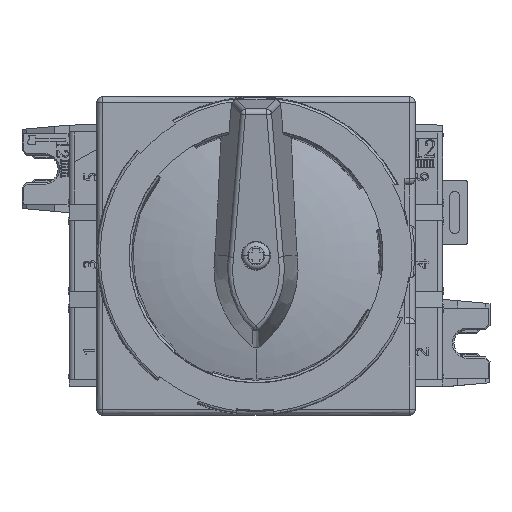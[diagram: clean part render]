
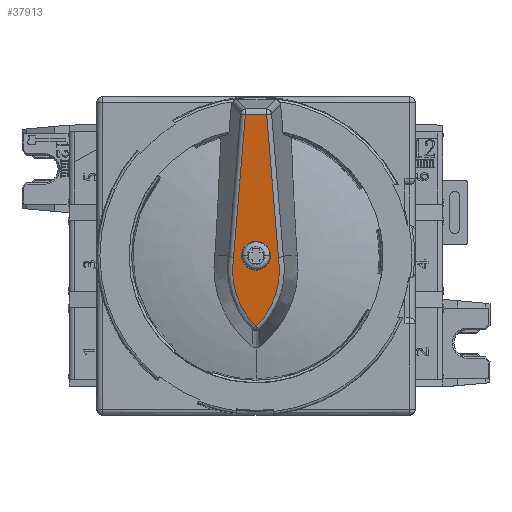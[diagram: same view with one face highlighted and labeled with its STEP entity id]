
A CAD part, top view. The second image highlights one B-rep face of the part: STEP entity #37913.
In plain terms, the highlighted planar face has unit normal (0, -0.159, 0.987).
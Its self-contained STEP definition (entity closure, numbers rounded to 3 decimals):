
#158 = CARTESIAN_POINT ( 'NONE',  ( -12., -45.383, 158.733 ) ) ;
#4258 = EDGE_LOOP ( 'NONE', ( #38844, #149845 ) ) ;
#5923 = CARTESIAN_POINT ( 'NONE',  ( -12., -28.288, 161.482 ) ) ;
#11836 = VERTEX_POINT ( 'NONE', #125252 ) ;
#14760 = DIRECTION ( 'NONE',  ( -1., 0., 0. ) ) ;
#16908 = VECTOR ( 'NONE', #90650, 1000. ) ;
#17272 = CARTESIAN_POINT ( 'NONE',  ( -12., -34.088, 160.549 ) ) ;
#22929 = VERTEX_POINT ( 'NONE', #55344 ) ;
#25547 = CARTESIAN_POINT ( 'NONE',  ( -6., -49.525, 158.067 ) ) ;
#25736 = DIRECTION ( 'NONE',  ( -0.082, 0.984, 0.158 ) ) ;
#26366 = EDGE_CURVE ( 'NONE', #76878, #71121, #51731, .T. ) ;
#27754 = VERTEX_POINT ( 'NONE', #100603 ) ;
#31312 = EDGE_CURVE ( 'NONE', #22929, #27754, #62911, .T. ) ;
#36503 = CARTESIAN_POINT ( 'NONE',  ( -9.873, -2.862, 165.571 ) ) ;
#37291 = VECTOR ( 'NONE', #25736, 1000. ) ;
#37913 = ADVANCED_FACE ( 'NONE', ( #92523, #89101 ), #104690, .T. ) ;
#37942 = ORIENTED_EDGE ( 'NONE', *, *, #150758, .T. ) ;
#38844 = ORIENTED_EDGE ( 'NONE', *, *, #31312, .F. ) ;
#44438 = CARTESIAN_POINT ( 'NONE',  ( -6.639, -36.705, 160.128 ) ) ;
#45864 = ORIENTED_EDGE ( 'NONE', *, *, #148966, .T. ) ;
#48055 = CARTESIAN_POINT ( 'NONE',  ( -12., -28.288, 161.482 ) ) ;
#51731 =( BOUNDED_CURVE ( )  B_SPLINE_CURVE ( 3, ( #70709, #163732, #57640, #150688 ),
 .UNSPECIFIED., .F., .T. ) 
 B_SPLINE_CURVE_WITH_KNOTS ( ( 4, 4 ),
 ( 0., 1. ),
 .UNSPECIFIED. ) 
 CURVE ( )  GEOMETRIC_REPRESENTATION_ITEM ( )  RATIONAL_B_SPLINE_CURVE ( ( 1., 0.926, 0.926, 1. ) ) 
 REPRESENTATION_ITEM ( '' )  );
#54082 = CARTESIAN_POINT ( 'NONE',  ( -8.265, -41.696, 159.326 ) ) ;
#55344 = CARTESIAN_POINT ( 'NONE',  ( -12., -28.288, 161.482 ) ) ;
#57640 = CARTESIAN_POINT ( 'NONE',  ( -15.735, -41.696, 159.326 ) ) ;
#60244 = CARTESIAN_POINT ( 'NONE',  ( -17.8, -28.288, 161.482 ) ) ;
#61644 =( BOUNDED_CURVE ( )  B_SPLINE_CURVE ( 3, ( #17272, #161680, #95603, #5923 ),
 .UNSPECIFIED., .F., .T. ) 
 B_SPLINE_CURVE_WITH_KNOTS ( ( 4, 4 ),
 ( 0., 1. ),
 .UNSPECIFIED. ) 
 CURVE ( )  GEOMETRIC_REPRESENTATION_ITEM ( )  RATIONAL_B_SPLINE_CURVE ( ( 1., 0.333, 0.333, 1. ) ) 
 REPRESENTATION_ITEM ( '' )  );
#62911 =( BOUNDED_CURVE ( )  B_SPLINE_CURVE ( 3, ( #48055, #60244, #163776, #123802 ),
 .UNSPECIFIED., .F., .T. ) 
 B_SPLINE_CURVE_WITH_KNOTS ( ( 4, 4 ),
 ( 0., 1. ),
 .UNSPECIFIED. ) 
 CURVE ( )  GEOMETRIC_REPRESENTATION_ITEM ( )  RATIONAL_B_SPLINE_CURVE ( ( 1., 0.333, 0.333, 1. ) ) 
 REPRESENTATION_ITEM ( '' )  );
#63844 = DIRECTION ( 'NONE',  ( 0., 0.987, 0.159 ) ) ;
#64991 = ORIENTED_EDGE ( 'NONE', *, *, #26366, .T. ) ;
#65395 = CARTESIAN_POINT ( 'NONE',  ( -17.933, -48.556, 158.222 ) ) ;
#70709 = CARTESIAN_POINT ( 'NONE',  ( -16.514, -31.525, 160.961 ) ) ;
#71121 = VERTEX_POINT ( 'NONE', #158 ) ;
#76573 = EDGE_LOOP ( 'NONE', ( #37942, #160110, #45864, #64991, #124690 ) ) ;
#76878 = VERTEX_POINT ( 'NONE', #104973 ) ;
#80460 = EDGE_CURVE ( 'NONE', #161849, #119809, #150382, .T. ) ;
#89101 = FACE_OUTER_BOUND ( 'NONE', #76573, .T. ) ;
#90650 = DIRECTION ( 'NONE',  ( -0.082, -0.984, -0.158 ) ) ;
#92523 = FACE_BOUND ( 'NONE', #4258, .T. ) ;
#95603 = CARTESIAN_POINT ( 'NONE',  ( -6.2, -28.288, 161.482 ) ) ;
#97520 = CARTESIAN_POINT ( 'NONE',  ( -7.486, -31.525, 160.961 ) ) ;
#100603 = CARTESIAN_POINT ( 'NONE',  ( -12., -34.088, 160.549 ) ) ;
#104541 = LINE ( 'NONE', #65395, #16908 ) ;
#104690 = PLANE ( 'NONE',  #128954 ) ;
#104973 = CARTESIAN_POINT ( 'NONE',  ( -16.514, -31.525, 160.961 ) ) ;
#113994 = EDGE_CURVE ( 'NONE', #71121, #11836, #147707, .T. ) ;
#116229 = LINE ( 'NONE', #168422, #37291 ) ;
#117010 = CARTESIAN_POINT ( 'NONE',  ( -14.127, -2.862, 165.571 ) ) ;
#119809 = VERTEX_POINT ( 'NONE', #117010 ) ;
#120201 = CARTESIAN_POINT ( 'NONE',  ( -12., -45.383, 158.733 ) ) ;
#123802 = CARTESIAN_POINT ( 'NONE',  ( -12., -34.088, 160.549 ) ) ;
#124690 = ORIENTED_EDGE ( 'NONE', *, *, #113994, .T. ) ;
#125252 = CARTESIAN_POINT ( 'NONE',  ( -7.486, -31.525, 160.961 ) ) ;
#128954 = AXIS2_PLACEMENT_3D ( 'NONE', #25547, #169075, #63844 ) ;
#147021 = VECTOR ( 'NONE', #14760, 1000. ) ;
#147707 =( BOUNDED_CURVE ( )  B_SPLINE_CURVE ( 3, ( #120201, #54082, #44438, #97520 ),
 .UNSPECIFIED., .F., .T. ) 
 B_SPLINE_CURVE_WITH_KNOTS ( ( 4, 4 ),
 ( 0., 1. ),
 .UNSPECIFIED. ) 
 CURVE ( )  GEOMETRIC_REPRESENTATION_ITEM ( )  RATIONAL_B_SPLINE_CURVE ( ( 1., 0.926, 0.926, 1. ) ) 
 REPRESENTATION_ITEM ( '' )  );
#148966 = EDGE_CURVE ( 'NONE', #119809, #76878, #104541, .T. ) ;
#149509 = CARTESIAN_POINT ( 'NONE',  ( -6., -2.862, 165.571 ) ) ;
#149845 = ORIENTED_EDGE ( 'NONE', *, *, #153880, .F. ) ;
#150382 = LINE ( 'NONE', #149509, #147021 ) ;
#150688 = CARTESIAN_POINT ( 'NONE',  ( -12., -45.383, 158.733 ) ) ;
#150758 = EDGE_CURVE ( 'NONE', #11836, #161849, #116229, .T. ) ;
#153880 = EDGE_CURVE ( 'NONE', #27754, #22929, #61644, .T. ) ;
#160110 = ORIENTED_EDGE ( 'NONE', *, *, #80460, .T. ) ;
#161680 = CARTESIAN_POINT ( 'NONE',  ( -6.2, -34.088, 160.549 ) ) ;
#161849 = VERTEX_POINT ( 'NONE', #36503 ) ;
#163732 = CARTESIAN_POINT ( 'NONE',  ( -17.361, -36.705, 160.128 ) ) ;
#163776 = CARTESIAN_POINT ( 'NONE',  ( -17.8, -34.088, 160.549 ) ) ;
#168422 = CARTESIAN_POINT ( 'NONE',  ( -5.987, -49.524, 158.067 ) ) ;
#169075 = DIRECTION ( 'NONE',  ( 0., -0.159, 0.987 ) ) ;
